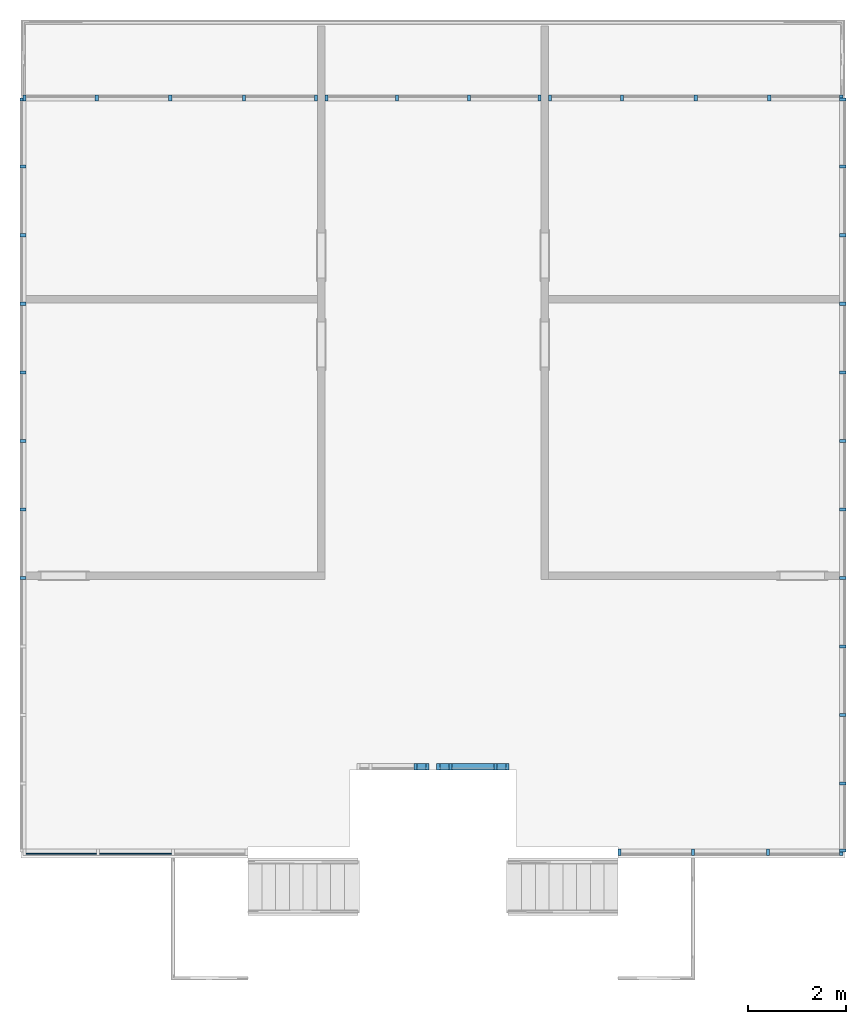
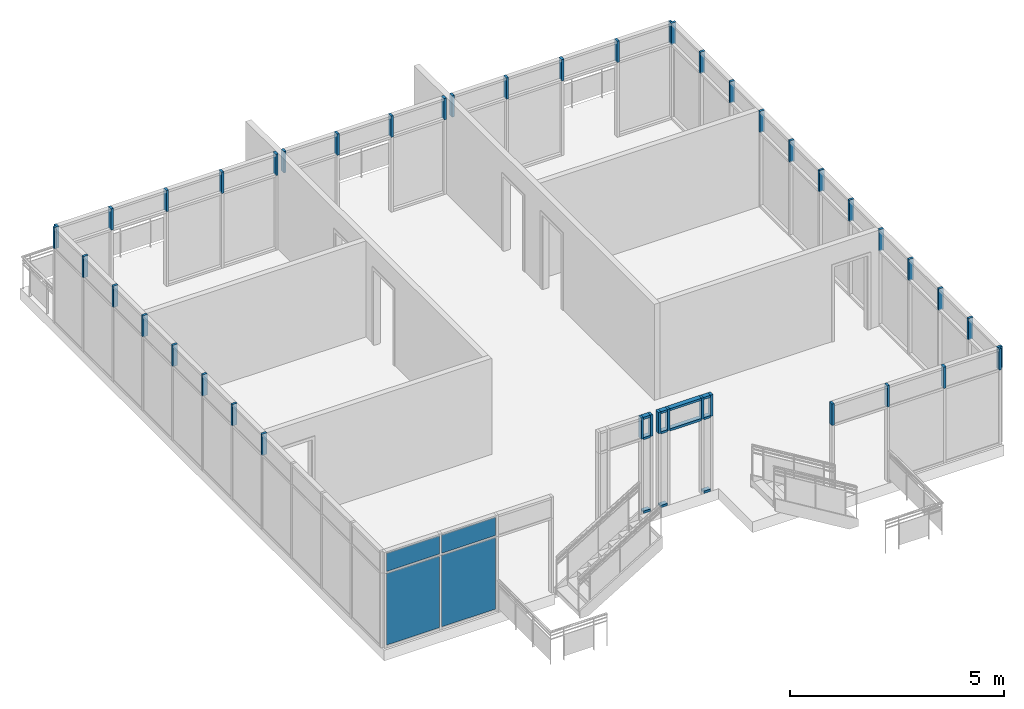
# One storey, part 4 of 11: 55 members, 4 plates, 9 elements without a shape of their own.
"""IFC2X3 building model written with IfcOpenShell, lengths in feet."""

from ifc_helpers import new_model, entity, si_unit, converted_unit, derived_unit, direction, frame, frame_2d, origin, origin_2d_with_axis, place, context, subcontext, project, spatial, rectangle, extrude, source, transform, mapped, material, layer, layer_set, layer_usage, type_object, type_shapes, element, aggregate, save


model = new_model("IFC2X3")

# Units and contexts
model_context = context("Model", 3, precision=0.0001, world=origin(), true_north=direction((6.12303176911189e-17, 1.0)))
body_context = subcontext(model_context, "Body", "Model", "MODEL_VIEW")
ifc_project = project(units=[converted_unit("LENGTHUNIT", "FOOT", entity("IfcRatioMeasure", 0.3048), si_unit("LENGTHUNIT", "METRE"), dimensions=[1, 0, 0, 0, 0, 0, 0]), converted_unit("AREAUNIT", "SQUARE FOOT", entity("IfcRatioMeasure", 0.09290304), si_unit("AREAUNIT", "SQUARE_METRE"), dimensions=[2, 0, 0, 0, 0, 0, 0]), converted_unit("VOLUMEUNIT", "CUBIC FOOT", entity("IfcRatioMeasure", 0.028316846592), si_unit("VOLUMEUNIT", "CUBIC_METRE"), dimensions=[3, 0, 0, 0, 0, 0, 0]), converted_unit("PLANEANGLEUNIT", "DEGREE", entity("IfcRatioMeasure", 0.0174532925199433), si_unit("PLANEANGLEUNIT", "RADIAN"), dimensions=[0, 0, 0, 0, 0, 0, 0]), si_unit("MASSUNIT", "GRAM", prefix="KILO"), derived_unit("MASSDENSITYUNIT", [(si_unit("MASSUNIT", "GRAM", prefix="KILO"), 1), (si_unit("LENGTHUNIT", "METRE"), -3)]), si_unit("TIMEUNIT", "SECOND"), si_unit("FREQUENCYUNIT", "HERTZ"), si_unit("THERMODYNAMICTEMPERATUREUNIT", "DEGREE_CELSIUS"), derived_unit("THERMALTRANSMITTANCEUNIT", [(si_unit("MASSUNIT", "GRAM", prefix="KILO"), 1), (si_unit("THERMODYNAMICTEMPERATUREUNIT", "KELVIN"), -1), (si_unit("TIMEUNIT", "SECOND"), -3)]), derived_unit("VOLUMETRICFLOWRATEUNIT", [(si_unit("LENGTHUNIT", "METRE"), 3), (si_unit("TIMEUNIT", "SECOND"), -1)]), si_unit("ELECTRICCURRENTUNIT", "AMPERE"), si_unit("ELECTRICVOLTAGEUNIT", "VOLT"), si_unit("POWERUNIT", "WATT"), si_unit("FORCEUNIT", "NEWTON"), si_unit("ILLUMINANCEUNIT", "LUX"), si_unit("LUMINOUSFLUXUNIT", "LUMEN"), si_unit("LUMINOUSINTENSITYUNIT", "CANDELA"), derived_unit("USERDEFINED", [(si_unit("MASSUNIT", "GRAM", prefix="KILO"), -1), (si_unit("LENGTHUNIT", "METRE"), -2), (si_unit("TIMEUNIT", "SECOND"), 3), (si_unit("LUMINOUSFLUXUNIT", "LUMEN"), 1)]), derived_unit("LINEARVELOCITYUNIT", [(si_unit("LENGTHUNIT", "METRE"), 1), (si_unit("TIMEUNIT", "SECOND"), -1)]), si_unit("PRESSUREUNIT", "PASCAL"), derived_unit("USERDEFINED", [(si_unit("LENGTHUNIT", "METRE"), -2), (si_unit("MASSUNIT", "GRAM", prefix="KILO"), 1), (si_unit("TIMEUNIT", "SECOND"), -2)])], contexts=[model_context])

# Site, building, storey
site_placement = place(None, origin())
site = spatial("IfcSite", under=ifc_project, at=site_placement, Name="Default", CompositionType="ELEMENT")
building_placement = place(site_placement, origin())
building = spatial("IfcBuilding", under=site, at=building_placement, CompositionType="ELEMENT")
storey_placement = place(building_placement, frame((0.0, 0.0, 40.0)))
storey = spatial("IfcBuildingStorey", under=building, at=storey_placement, Name="L 7", CompositionType="ELEMENT", Elevation=39.9999999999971)

# Curtain wall, member
curtain_wall_type = type_object("IfcCurtainWallType", Name="Curtain Wall:Storefront 2", PredefinedType="NOTDEFINED")
curtain_wall_1_placement = place(storey_placement, frame((0.0, 0.0, -40.0)))
curtain_wall_1 = element("IfcCurtainWall", 1, at=curtain_wall_1_placement, inside=storey, type_object=curtain_wall_type, Name="Curtain Wall:Storefront 2", ObjectType="Curtain Wall:Storefront 2")
ifc_material_1 = material(Name="Aluminum")
member_type_1 = type_object("IfcMemberType", Name="2.5\" x 5\" rectangular", PredefinedType="MEMBER")
shared_shape_1 = source(origin(), body_context, "Body", "SweptSolid", [
    extrude(rectangle(XDim=0.416666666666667, YDim=0.208333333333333, at=origin_2d_with_axis()), frame((-0.104166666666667, 0.0, -2.0), z_axis=(0.0, 0.0, 1.0), x_axis=(0.0, -1.0, 0.0)), (0.0, 0.0, 1.0), 2.0),
])
type_shapes(member_type_1, [shared_shape_1])
member_1_placement = place(storey_placement, frame((-21.6584961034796, -6.94114126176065, 7.0), z_axis=(0.0, 0.0, -1.0), x_axis=(-1.0, 0.0, 0.0)))
member_1 = element("IfcMember", 2, at=member_1_placement, type_object=member_type_1, material=ifc_material_1, Name="Rectangular Mullion:2.5\" x 5\" rectangular", ObjectType="2.5\" x 5\" rectangular", context=body_context, shape_type="MappedRepresentation", body=[
    mapped(shared_shape_1, transform((0.0, 0.0, 0.0), scale=1.0)),
])

curtain_wall_2_placement = place(storey_placement, frame((0.0, 0.0, -40.0)))
curtain_wall_2 = element("IfcCurtainWall", 3, at=curtain_wall_2_placement, inside=storey, type_object=curtain_wall_type, Name="Curtain Wall:Storefront 2", ObjectType="Curtain Wall:Storefront 2")
member_2_placement = place(storey_placement, frame((-33.7418294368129, -1.23280792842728, 7.0), z_axis=(0.0, 0.0, -1.0), x_axis=(-1.0, 0.0, 0.0)))
member_2 = element("IfcMember", 4, at=member_2_placement, type_object=member_type_1, material=ifc_material_1, Name="Rectangular Mullion:2.5\" x 5\" rectangular", ObjectType="2.5\" x 5\" rectangular", context=body_context, shape_type="MappedRepresentation", body=[
    mapped(shared_shape_1, transform((0.0, 0.0, 0.0), scale=1.0)),
])

curtain_wall_3_placement = place(storey_placement, frame((0.0, 0.0, -40.0)))
curtain_wall_3 = element("IfcCurtainWall", 5, at=curtain_wall_3_placement, inside=storey, type_object=curtain_wall_type, Name="Curtain Wall:Storefront 2", ObjectType="Curtain Wall:Storefront 2")
member_3_placement = place(storey_placement, frame((-61.3251627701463, 43.3505254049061, 7.0), z_axis=(0.0, 0.0, -1.0), x_axis=(0.0, 1.0, 0.0)))
member_3 = element("IfcMember", 6, at=member_3_placement, type_object=member_type_1, material=ifc_material_1, Name="Rectangular Mullion:2.5\" x 5\" rectangular", ObjectType="2.5\" x 5\" rectangular", context=body_context, shape_type="MappedRepresentation", body=[
    mapped(shared_shape_1, transform((0.0, 0.0, 0.0), scale=1.0)),
])

curtain_wall_4_placement = place(storey_placement, frame((0.0, 0.0, -40.0)))
curtain_wall_4 = element("IfcCurtainWall", 7, at=curtain_wall_4_placement, inside=storey, type_object=curtain_wall_type, Name="Curtain Wall:Storefront 2", ObjectType="Curtain Wall:Storefront 2")
member_4_placement = place(storey_placement, frame((-41.6963748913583, 43.3505254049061, 7.0), z_axis=(0.0, 0.0, -1.0), x_axis=(1.0, 0.0, 0.0)))
member_4 = element("IfcMember", 8, at=member_4_placement, type_object=member_type_1, material=ifc_material_1, Name="Rectangular Mullion:2.5\" x 5\" rectangular", ObjectType="2.5\" x 5\" rectangular", context=body_context, shape_type="MappedRepresentation", body=[
    mapped(shared_shape_1, transform((0.0, 0.0, 0.0), scale=1.0)),
])

curtain_wall_5_placement = place(storey_placement, frame((0.0, 0.0, -40.0)))
curtain_wall_5 = element("IfcCurtainWall", 9, at=curtain_wall_5_placement, inside=storey, type_object=curtain_wall_type, Name="Curtain Wall:Storefront 2", ObjectType="Curtain Wall:Storefront 2")
member_5_placement = place(storey_placement, frame((-6.65849610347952, -6.9411412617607, 7.0), z_axis=(0.0, 0.0, -1.0), x_axis=(0.0, -1.0, 0.0)))
member_5 = element("IfcMember", 10, at=member_5_placement, type_object=member_type_1, material=ifc_material_1, Name="Rectangular Mullion:2.5\" x 5\" rectangular", ObjectType="2.5\" x 5\" rectangular", context=body_context, shape_type="MappedRepresentation", body=[
    mapped(shared_shape_1, transform((0.0, 0.0, 0.0), scale=1.0)),
])

curtain_wall_6_placement = place(storey_placement, frame((0.0, 0.0, -40.0)))
curtain_wall_6 = element("IfcCurtainWall", 11, at=curtain_wall_6_placement, inside=storey, type_object=curtain_wall_type, Name="Curtain Wall:Storefront 2", ObjectType="Curtain Wall:Storefront 2")
member_6_placement = place(storey_placement, frame((-6.65849610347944, 43.350525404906, 7.0), z_axis=(0.0, 0.0, -1.0), x_axis=(1.0, 0.0, 0.0)))
member_6 = element("IfcMember", 12, at=member_6_placement, type_object=member_type_1, material=ifc_material_1, Name="Rectangular Mullion:2.5\" x 5\" rectangular", ObjectType="2.5\" x 5\" rectangular", context=body_context, shape_type="MappedRepresentation", body=[
    mapped(shared_shape_1, transform((0.0, 0.0, 0.0), scale=1.0)),
])

curtain_wall_7_placement = place(storey_placement, frame((0.0, 0.0, -40.0)))
curtain_wall_7 = element("IfcCurtainWall", 13, at=curtain_wall_7_placement, inside=storey, type_object=curtain_wall_type, Name="Curtain Wall:Storefront 2", ObjectType="Curtain Wall:Storefront 2")
member_7_placement = place(storey_placement, frame((-26.7872839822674, 43.350525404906, 7.0), z_axis=(0.0, 0.0, -1.0), x_axis=(1.0, 0.0, 0.0)))
member_7 = element("IfcMember", 14, at=member_7_placement, type_object=member_type_1, material=ifc_material_1, Name="Rectangular Mullion:2.5\" x 5\" rectangular", ObjectType="2.5\" x 5\" rectangular", context=body_context, shape_type="MappedRepresentation", body=[
    mapped(shared_shape_1, transform((0.0, 0.0, 0.0), scale=1.0)),
])

# Member
member_type_2 = type_object("IfcMemberType", Name="2.5\" x 5\" rectangular", PredefinedType="MEMBER")
shared_shape_2 = source(origin(), body_context, "Body", "SweptSolid", [
    extrude(rectangle(XDim=0.416666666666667, YDim=0.208333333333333, at=origin_2d_with_axis()), frame((-0.104166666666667, 0.0, -2.0), z_axis=(0.0, 0.0, 1.0), x_axis=(0.0, -1.0, 0.0)), (0.0, 0.0, 1.0), 2.0),
])
type_shapes(member_type_2, [shared_shape_2])
member_8_placement = place(storey_placement, frame((-6.65849610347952, -6.94114126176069, 9.0)))
member_8 = element("IfcMember", 15, at=member_8_placement, type_object=member_type_2, material=ifc_material_1, Name="Rectangular Mullion:2.5\" x 5\" rectangular", ObjectType="2.5\" x 5\" rectangular", context=body_context, shape_type="MappedRepresentation", body=[
    mapped(shared_shape_2, transform((0.0, 0.0, 0.0), scale=1.0)),
])

# Curtain wall, member
curtain_wall_8_placement = place(storey_placement, frame((0.0, 0.0, -40.0)))
curtain_wall_8 = element("IfcCurtainWall", 16, at=curtain_wall_8_placement, inside=storey, type_object=curtain_wall_type, Name="Curtain Wall:Storefront 2", ObjectType="Curtain Wall:Storefront 2")
member_9_placement = place(storey_placement, frame((-34.2418294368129, -1.23280792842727, 9.0)))
member_9 = element("IfcMember", 17, at=member_9_placement, type_object=member_type_2, material=ifc_material_1, Name="Rectangular Mullion:2.5\" x 5\" rectangular", ObjectType="2.5\" x 5\" rectangular", context=body_context, shape_type="MappedRepresentation", body=[
    mapped(shared_shape_2, transform((0.0, 0.0, 0.0), scale=1.0)),
])

# Member
member_10_placement = place(storey_placement, frame((-28.9084961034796, -1.23280792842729, 9.0)))
member_10 = element("IfcMember", 18, at=member_10_placement, type_object=member_type_2, material=ifc_material_1, Name="Rectangular Mullion:2.5\" x 5\" rectangular", ObjectType="2.5\" x 5\" rectangular", context=body_context, shape_type="MappedRepresentation", body=[
    mapped(shared_shape_2, transform((0.0, 0.0, 0.0), scale=1.0)),
])

member_11_placement = place(storey_placement, frame((-61.3251627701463, 43.3505254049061, 9.0), z_axis=(0.0, 0.0, 1.0), x_axis=(-1.0, 0.0, 0.0)))
member_11 = element("IfcMember", 19, at=member_11_placement, type_object=member_type_2, material=ifc_material_1, Name="Rectangular Mullion:2.5\" x 5\" rectangular", ObjectType="2.5\" x 5\" rectangular", context=body_context, shape_type="MappedRepresentation", body=[
    mapped(shared_shape_2, transform((0.0, 0.0, 0.0), scale=1.0)),
])

member_12_placement = place(storey_placement, frame((-6.65849610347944, 43.350525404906, 9.0), z_axis=(0.0, 0.0, 1.0), x_axis=(0.0, 1.0, 0.0)))
member_12 = element("IfcMember", 20, at=member_12_placement, type_object=member_type_2, material=ifc_material_1, Name="Rectangular Mullion:2.5\" x 5\" rectangular", ObjectType="2.5\" x 5\" rectangular", context=body_context, shape_type="MappedRepresentation", body=[
    mapped(shared_shape_2, transform((0.0, 0.0, 0.0), scale=1.0)),
])

member_13_placement = place(storey_placement, frame((-26.2872839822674, 43.350525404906, 9.0), z_axis=(0.0, 0.0, 1.0), x_axis=(-1.0, 0.0, 0.0)))
member_13 = element("IfcMember", 21, at=member_13_placement, type_object=member_type_2, material=ifc_material_1, Name="Rectangular Mullion:2.5\" x 5\" rectangular", ObjectType="2.5\" x 5\" rectangular", context=body_context, shape_type="MappedRepresentation", body=[
    mapped(shared_shape_2, transform((0.0, 0.0, 0.0), scale=1.0)),
])

member_14_placement = place(storey_placement, frame((-41.1963748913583, 43.3505254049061, 9.0), z_axis=(0.0, 0.0, 1.0), x_axis=(-1.0, 0.0, 0.0)))
member_14 = element("IfcMember", 22, at=member_14_placement, type_object=member_type_2, material=ifc_material_1, Name="Rectangular Mullion:2.5\" x 5\" rectangular", ObjectType="2.5\" x 5\" rectangular", context=body_context, shape_type="MappedRepresentation", body=[
    mapped(shared_shape_2, transform((0.0, 0.0, 0.0), scale=1.0)),
])

member_type_3 = type_object("IfcMemberType", Name="2.5\" x 5\" rectangular", PredefinedType="MEMBER")
shared_shape_3 = source(origin(), body_context, "Body", "SweptSolid", [
    extrude(rectangle(XDim=0.416666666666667, YDim=0.208333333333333, at=origin_2d_with_axis()), frame((0.0, 0.0, -2.0), z_axis=(0.0, 0.0, 1.0), x_axis=(0.0, -1.0, 0.0)), (0.0, 0.0, 1.0), 2.0),
])
type_shapes(member_type_3, [shared_shape_3])
member_15_placement = place(storey_placement, frame((-11.6584961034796, -6.94114126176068, 7.0), z_axis=(0.0, 0.0, -1.0), x_axis=(-1.0, 0.0, 0.0)))
member_15 = element("IfcMember", 23, at=member_15_placement, type_object=member_type_3, material=ifc_material_1, Name="Rectangular Mullion:2.5\" x 5\" rectangular", ObjectType="2.5\" x 5\" rectangular", context=body_context, shape_type="MappedRepresentation", body=[
    mapped(shared_shape_3, transform((0.0, 0.0, 0.0), scale=1.0)),
])

member_16_placement = place(storey_placement, frame((-16.6584961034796, -6.94114126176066, 7.0), z_axis=(0.0, 0.0, -1.0), x_axis=(-1.0, 0.0, 0.0)))
member_16 = element("IfcMember", 24, at=member_16_placement, type_object=member_type_3, material=ifc_material_1, Name="Rectangular Mullion:2.5\" x 5\" rectangular", ObjectType="2.5\" x 5\" rectangular", context=body_context, shape_type="MappedRepresentation", body=[
    mapped(shared_shape_3, transform((0.0, 0.0, 0.0), scale=1.0)),
])

aggregate(curtain_wall_1, [member_1, member_8, member_15, member_16])

member_17_placement = place(storey_placement, frame((-35.1584961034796, -1.23280792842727, 7.0), z_axis=(0.0, 0.0, -1.0), x_axis=(-1.0, 0.0, 0.0)))
member_17 = element("IfcMember", 25, at=member_17_placement, type_object=member_type_3, material=ifc_material_1, Name="Rectangular Mullion:2.5\" x 5\" rectangular", ObjectType="2.5\" x 5\" rectangular", context=body_context, shape_type="MappedRepresentation", body=[
    mapped(shared_shape_3, transform((0.0, 0.0, 0.0), scale=1.0)),
])

member_18_placement = place(storey_placement, frame((-29.8251627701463, -1.23280792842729, 7.0), z_axis=(0.0, 0.0, -1.0), x_axis=(-1.0, 0.0, 0.0)))
member_18 = element("IfcMember", 26, at=member_18_placement, type_object=member_type_3, material=ifc_material_1, Name="Rectangular Mullion:2.5\" x 5\" rectangular", ObjectType="2.5\" x 5\" rectangular", context=body_context, shape_type="MappedRepresentation", body=[
    mapped(shared_shape_3, transform((0.0, 0.0, 0.0), scale=1.0)),
])

member_19_placement = place(storey_placement, frame((-32.8251627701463, -1.23280792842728, 7.0), z_axis=(0.0, 0.0, -1.0), x_axis=(-1.0, 0.0, 0.0)))
member_19 = element("IfcMember", 27, at=member_19_placement, type_object=member_type_3, material=ifc_material_1, Name="Rectangular Mullion:2.5\" x 5\" rectangular", ObjectType="2.5\" x 5\" rectangular", context=body_context, shape_type="MappedRepresentation", body=[
    mapped(shared_shape_3, transform((0.0, 0.0, 0.0), scale=1.0)),
])

member_20_placement = place(storey_placement, frame((-61.3251627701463, 11.3467375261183, 7.0), z_axis=(0.0, 0.0, -1.0), x_axis=(0.0, 1.0, 0.0)))
member_20 = element("IfcMember", 28, at=member_20_placement, type_object=member_type_3, material=ifc_material_1, Name="Rectangular Mullion:2.5\" x 5\" rectangular", ObjectType="2.5\" x 5\" rectangular", context=body_context, shape_type="MappedRepresentation", body=[
    mapped(shared_shape_3, transform((0.0, 0.0, 0.0), scale=1.0)),
])

member_21_placement = place(storey_placement, frame((-61.3251627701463, 15.918707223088, 7.0), z_axis=(0.0, 0.0, -1.0), x_axis=(0.0, 1.0, 0.0)))
member_21 = element("IfcMember", 29, at=member_21_placement, type_object=member_type_3, material=ifc_material_1, Name="Rectangular Mullion:2.5\" x 5\" rectangular", ObjectType="2.5\" x 5\" rectangular", context=body_context, shape_type="MappedRepresentation", body=[
    mapped(shared_shape_3, transform((0.0, 0.0, 0.0), scale=1.0)),
])

member_22_placement = place(storey_placement, frame((-61.3251627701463, 20.4906769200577, 7.0), z_axis=(0.0, 0.0, -1.0), x_axis=(0.0, 1.0, 0.0)))
member_22 = element("IfcMember", 30, at=member_22_placement, type_object=member_type_3, material=ifc_material_1, Name="Rectangular Mullion:2.5\" x 5\" rectangular", ObjectType="2.5\" x 5\" rectangular", context=body_context, shape_type="MappedRepresentation", body=[
    mapped(shared_shape_3, transform((0.0, 0.0, 0.0), scale=1.0)),
])

member_23_placement = place(storey_placement, frame((-61.3251627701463, 25.0626466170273, 7.0), z_axis=(0.0, 0.0, -1.0), x_axis=(0.0, 1.0, 0.0)))
member_23 = element("IfcMember", 31, at=member_23_placement, type_object=member_type_3, material=ifc_material_1, Name="Rectangular Mullion:2.5\" x 5\" rectangular", ObjectType="2.5\" x 5\" rectangular", context=body_context, shape_type="MappedRepresentation", body=[
    mapped(shared_shape_3, transform((0.0, 0.0, 0.0), scale=1.0)),
])

member_24_placement = place(storey_placement, frame((-61.3251627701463, 29.634616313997, 7.0), z_axis=(0.0, 0.0, -1.0), x_axis=(0.0, 1.0, 0.0)))
member_24 = element("IfcMember", 32, at=member_24_placement, type_object=member_type_3, material=ifc_material_1, Name="Rectangular Mullion:2.5\" x 5\" rectangular", ObjectType="2.5\" x 5\" rectangular", context=body_context, shape_type="MappedRepresentation", body=[
    mapped(shared_shape_3, transform((0.0, 0.0, 0.0), scale=1.0)),
])

member_25_placement = place(storey_placement, frame((-61.3251627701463, 34.2065860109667, 7.0), z_axis=(0.0, 0.0, -1.0), x_axis=(0.0, 1.0, 0.0)))
member_25 = element("IfcMember", 33, at=member_25_placement, type_object=member_type_3, material=ifc_material_1, Name="Rectangular Mullion:2.5\" x 5\" rectangular", ObjectType="2.5\" x 5\" rectangular", context=body_context, shape_type="MappedRepresentation", body=[
    mapped(shared_shape_3, transform((0.0, 0.0, 0.0), scale=1.0)),
])

member_26_placement = place(storey_placement, frame((-61.3251627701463, 38.7785557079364, 7.0), z_axis=(0.0, 0.0, -1.0), x_axis=(0.0, 1.0, 0.0)))
member_26 = element("IfcMember", 34, at=member_26_placement, type_object=member_type_3, material=ifc_material_1, Name="Rectangular Mullion:2.5\" x 5\" rectangular", ObjectType="2.5\" x 5\" rectangular", context=body_context, shape_type="MappedRepresentation", body=[
    mapped(shared_shape_3, transform((0.0, 0.0, 0.0), scale=1.0)),
])

aggregate(curtain_wall_3, [member_3, member_20, member_21, member_22, member_23, member_24, member_25, member_26])

member_27_placement = place(storey_placement, frame((-56.4179658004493, 43.3505254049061, 7.0), z_axis=(0.0, 0.0, -1.0), x_axis=(1.0, 0.0, 0.0)))
member_27 = element("IfcMember", 35, at=member_27_placement, type_object=member_type_3, material=ifc_material_1, Name="Rectangular Mullion:2.5\" x 5\" rectangular", ObjectType="2.5\" x 5\" rectangular", context=body_context, shape_type="MappedRepresentation", body=[
    mapped(shared_shape_3, transform((0.0, 0.0, 0.0), scale=1.0)),
])

member_28_placement = place(storey_placement, frame((-51.5107688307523, 43.3505254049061, 7.0), z_axis=(0.0, 0.0, -1.0), x_axis=(1.0, 0.0, 0.0)))
member_28 = element("IfcMember", 36, at=member_28_placement, type_object=member_type_3, material=ifc_material_1, Name="Rectangular Mullion:2.5\" x 5\" rectangular", ObjectType="2.5\" x 5\" rectangular", context=body_context, shape_type="MappedRepresentation", body=[
    mapped(shared_shape_3, transform((0.0, 0.0, 0.0), scale=1.0)),
])

member_29_placement = place(storey_placement, frame((-46.6035718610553, 43.3505254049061, 7.0), z_axis=(0.0, 0.0, -1.0), x_axis=(1.0, 0.0, 0.0)))
member_29 = element("IfcMember", 37, at=member_29_placement, type_object=member_type_3, material=ifc_material_1, Name="Rectangular Mullion:2.5\" x 5\" rectangular", ObjectType="2.5\" x 5\" rectangular", context=body_context, shape_type="MappedRepresentation", body=[
    mapped(shared_shape_3, transform((0.0, 0.0, 0.0), scale=1.0)),
])

aggregate(curtain_wall_4, [member_4, member_11, member_27, member_28, member_29])

member_30_placement = place(storey_placement, frame((-6.65849610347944, 38.7785557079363, 7.0), z_axis=(0.0, 0.0, -1.0), x_axis=(0.0, -1.0, 0.0)))
member_30 = element("IfcMember", 38, at=member_30_placement, type_object=member_type_3, material=ifc_material_1, Name="Rectangular Mullion:2.5\" x 5\" rectangular", ObjectType="2.5\" x 5\" rectangular", context=body_context, shape_type="MappedRepresentation", body=[
    mapped(shared_shape_3, transform((0.0, 0.0, 0.0), scale=1.0)),
])

member_31_placement = place(storey_placement, frame((-6.65849610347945, 34.2065860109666, 7.0), z_axis=(0.0, 0.0, -1.0), x_axis=(0.0, -1.0, 0.0)))
member_31 = element("IfcMember", 39, at=member_31_placement, type_object=member_type_3, material=ifc_material_1, Name="Rectangular Mullion:2.5\" x 5\" rectangular", ObjectType="2.5\" x 5\" rectangular", context=body_context, shape_type="MappedRepresentation", body=[
    mapped(shared_shape_3, transform((0.0, 0.0, 0.0), scale=1.0)),
])

member_32_placement = place(storey_placement, frame((-6.65849610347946, 29.6346163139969, 7.0), z_axis=(0.0, 0.0, -1.0), x_axis=(0.0, -1.0, 0.0)))
member_32 = element("IfcMember", 40, at=member_32_placement, type_object=member_type_3, material=ifc_material_1, Name="Rectangular Mullion:2.5\" x 5\" rectangular", ObjectType="2.5\" x 5\" rectangular", context=body_context, shape_type="MappedRepresentation", body=[
    mapped(shared_shape_3, transform((0.0, 0.0, 0.0), scale=1.0)),
])

member_33_placement = place(storey_placement, frame((-6.65849610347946, 25.0626466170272, 7.0), z_axis=(0.0, 0.0, -1.0), x_axis=(0.0, -1.0, 0.0)))
member_33 = element("IfcMember", 41, at=member_33_placement, type_object=member_type_3, material=ifc_material_1, Name="Rectangular Mullion:2.5\" x 5\" rectangular", ObjectType="2.5\" x 5\" rectangular", context=body_context, shape_type="MappedRepresentation", body=[
    mapped(shared_shape_3, transform((0.0, 0.0, 0.0), scale=1.0)),
])

member_34_placement = place(storey_placement, frame((-6.65849610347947, 20.4906769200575, 7.0), z_axis=(0.0, 0.0, -1.0), x_axis=(0.0, -1.0, 0.0)))
member_34 = element("IfcMember", 42, at=member_34_placement, type_object=member_type_3, material=ifc_material_1, Name="Rectangular Mullion:2.5\" x 5\" rectangular", ObjectType="2.5\" x 5\" rectangular", context=body_context, shape_type="MappedRepresentation", body=[
    mapped(shared_shape_3, transform((0.0, 0.0, 0.0), scale=1.0)),
])

member_35_placement = place(storey_placement, frame((-6.65849610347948, 15.9187072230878, 7.0), z_axis=(0.0, 0.0, -1.0), x_axis=(0.0, -1.0, 0.0)))
member_35 = element("IfcMember", 43, at=member_35_placement, type_object=member_type_3, material=ifc_material_1, Name="Rectangular Mullion:2.5\" x 5\" rectangular", ObjectType="2.5\" x 5\" rectangular", context=body_context, shape_type="MappedRepresentation", body=[
    mapped(shared_shape_3, transform((0.0, 0.0, 0.0), scale=1.0)),
])

member_36_placement = place(storey_placement, frame((-6.65849610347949, 11.3467375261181, 7.0), z_axis=(0.0, 0.0, -1.0), x_axis=(0.0, -1.0, 0.0)))
member_36 = element("IfcMember", 44, at=member_36_placement, type_object=member_type_3, material=ifc_material_1, Name="Rectangular Mullion:2.5\" x 5\" rectangular", ObjectType="2.5\" x 5\" rectangular", context=body_context, shape_type="MappedRepresentation", body=[
    mapped(shared_shape_3, transform((0.0, 0.0, 0.0), scale=1.0)),
])

member_37_placement = place(storey_placement, frame((-6.65849610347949, 6.77476782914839, 7.0), z_axis=(0.0, 0.0, -1.0), x_axis=(0.0, -1.0, 0.0)))
member_37 = element("IfcMember", 45, at=member_37_placement, type_object=member_type_3, material=ifc_material_1, Name="Rectangular Mullion:2.5\" x 5\" rectangular", ObjectType="2.5\" x 5\" rectangular", context=body_context, shape_type="MappedRepresentation", body=[
    mapped(shared_shape_3, transform((0.0, 0.0, 0.0), scale=1.0)),
])

member_38_placement = place(storey_placement, frame((-6.6584961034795, 2.20279813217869, 7.0), z_axis=(0.0, 0.0, -1.0), x_axis=(0.0, -1.0, 0.0)))
member_38 = element("IfcMember", 46, at=member_38_placement, type_object=member_type_3, material=ifc_material_1, Name="Rectangular Mullion:2.5\" x 5\" rectangular", ObjectType="2.5\" x 5\" rectangular", context=body_context, shape_type="MappedRepresentation", body=[
    mapped(shared_shape_3, transform((0.0, 0.0, 0.0), scale=1.0)),
])

member_39_placement = place(storey_placement, frame((-6.65849610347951, -2.369171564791, 7.0), z_axis=(0.0, 0.0, -1.0), x_axis=(0.0, -1.0, 0.0)))
member_39 = element("IfcMember", 47, at=member_39_placement, type_object=member_type_3, material=ifc_material_1, Name="Rectangular Mullion:2.5\" x 5\" rectangular", ObjectType="2.5\" x 5\" rectangular", context=body_context, shape_type="MappedRepresentation", body=[
    mapped(shared_shape_3, transform((0.0, 0.0, 0.0), scale=1.0)),
])

aggregate(curtain_wall_5, [member_5, member_12, member_30, member_31, member_32, member_33, member_34, member_35, member_36, member_37, member_38, member_39])

member_40_placement = place(storey_placement, frame((-21.3800870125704, 43.350525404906, 7.0), z_axis=(0.0, 0.0, -1.0), x_axis=(1.0, 0.0, 0.0)))
member_40 = element("IfcMember", 48, at=member_40_placement, type_object=member_type_3, material=ifc_material_1, Name="Rectangular Mullion:2.5\" x 5\" rectangular", ObjectType="2.5\" x 5\" rectangular", context=body_context, shape_type="MappedRepresentation", body=[
    mapped(shared_shape_3, transform((0.0, 0.0, 0.0), scale=1.0)),
])

member_41_placement = place(storey_placement, frame((-16.4728900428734, 43.350525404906, 7.0), z_axis=(0.0, 0.0, -1.0), x_axis=(1.0, 0.0, 0.0)))
member_41 = element("IfcMember", 49, at=member_41_placement, type_object=member_type_3, material=ifc_material_1, Name="Rectangular Mullion:2.5\" x 5\" rectangular", ObjectType="2.5\" x 5\" rectangular", context=body_context, shape_type="MappedRepresentation", body=[
    mapped(shared_shape_3, transform((0.0, 0.0, 0.0), scale=1.0)),
])

member_42_placement = place(storey_placement, frame((-11.5656930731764, 43.350525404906, 7.0), z_axis=(0.0, 0.0, -1.0), x_axis=(1.0, 0.0, 0.0)))
member_42 = element("IfcMember", 50, at=member_42_placement, type_object=member_type_3, material=ifc_material_1, Name="Rectangular Mullion:2.5\" x 5\" rectangular", ObjectType="2.5\" x 5\" rectangular", context=body_context, shape_type="MappedRepresentation", body=[
    mapped(shared_shape_3, transform((0.0, 0.0, 0.0), scale=1.0)),
])

aggregate(curtain_wall_6, [member_6, member_13, member_40, member_41, member_42])

member_43_placement = place(storey_placement, frame((-36.393344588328, 43.3505254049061, 7.0), z_axis=(0.0, 0.0, -1.0), x_axis=(1.0, 0.0, 0.0)))
member_43 = element("IfcMember", 51, at=member_43_placement, type_object=member_type_3, material=ifc_material_1, Name="Rectangular Mullion:2.5\" x 5\" rectangular", ObjectType="2.5\" x 5\" rectangular", context=body_context, shape_type="MappedRepresentation", body=[
    mapped(shared_shape_3, transform((0.0, 0.0, 0.0), scale=1.0)),
])

member_44_placement = place(storey_placement, frame((-31.5903142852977, 43.350525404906, 7.0), z_axis=(0.0, 0.0, -1.0), x_axis=(1.0, 0.0, 0.0)))
member_44 = element("IfcMember", 52, at=member_44_placement, type_object=member_type_3, material=ifc_material_1, Name="Rectangular Mullion:2.5\" x 5\" rectangular", ObjectType="2.5\" x 5\" rectangular", context=body_context, shape_type="MappedRepresentation", body=[
    mapped(shared_shape_3, transform((0.0, 0.0, 0.0), scale=1.0)),
])

aggregate(curtain_wall_7, [member_7, member_14, member_43, member_44])

member_type_4 = type_object("IfcMemberType", Name="2.5\" x 5\" rectangular", PredefinedType="MEMBER")
shared_shape_4 = source(origin(), body_context, "Body", "SweptSolid", [
    extrude(rectangle(XDim=0.416666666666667, YDim=0.208333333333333, at=origin_2d_with_axis()), frame((-0.104166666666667, 0.0, -0.604166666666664), z_axis=(0.0, 0.0, 1.0), x_axis=(0.0, -1.0, 0.0)), (0.0, 0.0, 1.0), 0.604166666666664),
])
type_shapes(member_type_4, [shared_shape_4])
member_45_placement = place(storey_placement, frame((-35.0543294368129, -1.23280792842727, 9.0), z_axis=(-1.0, 0.0, 0.0), x_axis=(0.0, 0.0, 1.0)))
member_45 = element("IfcMember", 53, at=member_45_placement, type_object=member_type_4, material=ifc_material_1, Name="Rectangular Mullion:2.5\" x 5\" rectangular", ObjectType="2.5\" x 5\" rectangular", context=body_context, shape_type="MappedRepresentation", body=[
    mapped(shared_shape_4, transform((0.0, 0.0, 0.0), scale=1.0)),
])

member_46_placement = place(storey_placement, frame((-33.5334961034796, -1.23280792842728, 9.0), z_axis=(-1.0, 0.0, 0.0), x_axis=(0.0, 0.0, 1.0)))
member_46 = element("IfcMember", 54, at=member_46_placement, type_object=member_type_4, material=ifc_material_1, Name="Rectangular Mullion:2.5\" x 5\" rectangular", ObjectType="2.5\" x 5\" rectangular", context=body_context, shape_type="MappedRepresentation", body=[
    mapped(shared_shape_4, transform((0.0, 0.0, 0.0), scale=1.0)),
])

member_47_placement = place(storey_placement, frame((-29.7209961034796, -1.23280792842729, 9.0), z_axis=(-1.0, 0.0, 0.0), x_axis=(0.0, 0.0, 1.0)))
member_47 = element("IfcMember", 55, at=member_47_placement, type_object=member_type_4, material=ifc_material_1, Name="Rectangular Mullion:2.5\" x 5\" rectangular", ObjectType="2.5\" x 5\" rectangular", context=body_context, shape_type="MappedRepresentation", body=[
    mapped(shared_shape_4, transform((0.0, 0.0, 0.0), scale=1.0)),
])

member_type_5 = type_object("IfcMemberType", Name="2.5\" x 5\" rectangular", PredefinedType="MEMBER")
shared_shape_5 = source(origin(), body_context, "Body", "SweptSolid", [
    extrude(rectangle(XDim=0.416666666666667, YDim=0.208333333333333, at=origin_2d_with_axis()), frame((-0.104166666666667, 0.0, -0.604166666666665), z_axis=(0.0, 0.0, 1.0), x_axis=(0.0, -1.0, 0.0)), (0.0, 0.0, 1.0), 0.604166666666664),
])
type_shapes(member_type_5, [shared_shape_5])
member_48_placement = place(storey_placement, frame((-34.4501627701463, -1.23280792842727, 0.0), z_axis=(1.0, 0.0, 0.0), x_axis=(0.0, 0.0, -1.0)))
member_48 = element("IfcMember", 56, at=member_48_placement, type_object=member_type_5, material=ifc_material_1, Name="Rectangular Mullion:2.5\" x 5\" rectangular", ObjectType="2.5\" x 5\" rectangular", context=body_context, shape_type="MappedRepresentation", body=[
    mapped(shared_shape_5, transform((0.0, 0.0, 0.0), scale=1.0)),
])

member_49_placement = place(storey_placement, frame((-29.1168294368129, -1.23280792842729, 0.0), z_axis=(1.0, 0.0, 0.0), x_axis=(0.0, 0.0, -1.0)))
member_49 = element("IfcMember", 57, at=member_49_placement, type_object=member_type_5, material=ifc_material_1, Name="Rectangular Mullion:2.5\" x 5\" rectangular", ObjectType="2.5\" x 5\" rectangular", context=body_context, shape_type="MappedRepresentation", body=[
    mapped(shared_shape_5, transform((0.0, 0.0, 0.0), scale=1.0)),
])

member_50_placement = place(storey_placement, frame((-32.9293294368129, -1.23280792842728, 0.0), z_axis=(1.0, 0.0, 0.0), x_axis=(0.0, 0.0, -1.0)))
member_50 = element("IfcMember", 58, at=member_50_placement, type_object=member_type_5, material=ifc_material_1, Name="Rectangular Mullion:2.5\" x 5\" rectangular", ObjectType="2.5\" x 5\" rectangular", context=body_context, shape_type="MappedRepresentation", body=[
    mapped(shared_shape_5, transform((0.0, 0.0, 0.0), scale=1.0)),
])

member_type_6 = type_object("IfcMemberType", Name="2.5\" x 5\" rectangular", PredefinedType="MEMBER")
shared_shape_6 = source(origin(), body_context, "Body", "SweptSolid", [
    extrude(rectangle(XDim=0.416666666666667, YDim=0.208333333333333, at=origin_2d_with_axis()), frame((0.0, 0.0, -0.604166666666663), z_axis=(0.0, 0.0, 1.0), x_axis=(0.0, -1.0, 0.0)), (0.0, 0.0, 1.0), 0.604166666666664),
])
type_shapes(member_type_6, [shared_shape_6])
member_51_placement = place(storey_placement, frame((-35.0543294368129, -1.23280792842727, 7.0), z_axis=(-1.0, 0.0, 0.0), x_axis=(0.0, 0.0, 1.0)))
member_51 = element("IfcMember", 59, at=member_51_placement, type_object=member_type_6, material=ifc_material_1, Name="Rectangular Mullion:2.5\" x 5\" rectangular", ObjectType="2.5\" x 5\" rectangular", context=body_context, shape_type="MappedRepresentation", body=[
    mapped(shared_shape_6, transform((0.0, 0.0, 0.0), scale=1.0)),
])

aggregate(curtain_wall_8, [member_48, member_9, member_51, member_45, member_17])

member_52_placement = place(storey_placement, frame((-29.7209961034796, -1.23280792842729, 7.0), z_axis=(-1.0, 0.0, 0.0), x_axis=(0.0, 0.0, 1.0)))
member_52 = element("IfcMember", 60, at=member_52_placement, type_object=member_type_6, material=ifc_material_1, Name="Rectangular Mullion:2.5\" x 5\" rectangular", ObjectType="2.5\" x 5\" rectangular", context=body_context, shape_type="MappedRepresentation", body=[
    mapped(shared_shape_6, transform((0.0, 0.0, 0.0), scale=1.0)),
])

member_53_placement = place(storey_placement, frame((-33.5334961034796, -1.23280792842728, 7.0), z_axis=(-1.0, 0.0, 0.0), x_axis=(0.0, 0.0, 1.0)))
member_53 = element("IfcMember", 61, at=member_53_placement, type_object=member_type_6, material=ifc_material_1, Name="Rectangular Mullion:2.5\" x 5\" rectangular", ObjectType="2.5\" x 5\" rectangular", context=body_context, shape_type="MappedRepresentation", body=[
    mapped(shared_shape_6, transform((0.0, 0.0, 0.0), scale=1.0)),
])

member_type_7 = type_object("IfcMemberType", Name="2.5\" x 5\" rectangular", PredefinedType="MEMBER")
shared_shape_7 = source(origin(), body_context, "Body", "SweptSolid", [
    extrude(rectangle(XDim=0.416666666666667, YDim=0.208333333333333, at=origin_2d_with_axis()), frame((0.0, 0.0, -2.79166666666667), z_axis=(0.0, 0.0, 1.0), x_axis=(0.0, -1.0, 0.0)), (0.0, 0.0, 1.0), 2.79166666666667),
])
type_shapes(member_type_7, [shared_shape_7])
member_54_placement = place(storey_placement, frame((-32.7209961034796, -1.23280792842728, 7.0), z_axis=(-1.0, 0.0, 0.0), x_axis=(0.0, 0.0, 1.0)))
member_54 = element("IfcMember", 62, at=member_54_placement, type_object=member_type_7, material=ifc_material_1, Name="Rectangular Mullion:2.5\" x 5\" rectangular", ObjectType="2.5\" x 5\" rectangular", context=body_context, shape_type="MappedRepresentation", body=[
    mapped(shared_shape_7, transform((0.0, 0.0, 0.0), scale=1.0)),
])

member_type_8 = type_object("IfcMemberType", Name="2.5\" x 5\" rectangular", PredefinedType="MEMBER")
shared_shape_8 = source(origin(), body_context, "Body", "SweptSolid", [
    extrude(rectangle(XDim=0.416666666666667, YDim=0.208333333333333, at=origin_2d_with_axis()), frame((-0.104166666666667, 0.0, -2.79166666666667), z_axis=(0.0, 0.0, 1.0), x_axis=(0.0, -1.0, 0.0)), (0.0, 0.0, 1.0), 2.79166666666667),
])
type_shapes(member_type_8, [shared_shape_8])
member_55_placement = place(storey_placement, frame((-32.7209961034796, -1.23280792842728, 9.0), z_axis=(-1.0, 0.0, 0.0), x_axis=(0.0, 0.0, 1.0)))
member_55 = element("IfcMember", 63, at=member_55_placement, type_object=member_type_8, material=ifc_material_1, Name="Rectangular Mullion:2.5\" x 5\" rectangular", ObjectType="2.5\" x 5\" rectangular", context=body_context, shape_type="MappedRepresentation", body=[
    mapped(shared_shape_8, transform((0.0, 0.0, 0.0), scale=1.0)),
])

aggregate(curtain_wall_2, [member_46, member_49, member_2, member_10, member_52, member_47, member_54, member_18, member_55, member_50, member_53, member_19])

# Curtain wall, plates
curtain_wall_9_placement = place(storey_placement, frame((0.0, 0.0, -40.0)))
curtain_wall_9 = element("IfcCurtainWall", 64, at=curtain_wall_9_placement, inside=storey, type_object=curtain_wall_type, Name="Curtain Wall:Storefront 2", ObjectType="Curtain Wall:Storefront 2")
ifc_material_2 = material(Name="<Unnamed>")
ifc_layer = layer(ifc_material_2, 0.0833333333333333)
ifc_layer_set = layer_set([ifc_layer], Name="Curtain Wall:Storefront")
ifc_layer_usage_1 = layer_usage(ifc_layer_set, "AXIS3", "POSITIVE", 0.104166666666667)
plate_type_1 = type_object("IfcPlateType", Name="Glazed", PredefinedType="CURTAIN_PANEL", material=ifc_layer_set)
shared_shape_9 = source(origin(), body_context, "Body", "SweptSolid", [
    extrude(rectangle(XDim=0.0833333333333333, YDim=4.6875, at=frame_2d((-6.93889390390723e-18, 0.0), x_axis=(1.0, 0.0))), frame((0.0, 0.104166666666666, 0.0), z_axis=(0.0, 0.0, 1.0), x_axis=(0.0, 1.0, 0.0)), (0.0, 0.0, 1.0), 6.6875),
])
type_shapes(plate_type_1, [shared_shape_9])
plate_1_placement = place(curtain_wall_9_placement, frame((-58.7730794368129, -6.94114126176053, 40.2083333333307), z_axis=(0.0, 0.0, 1.0), x_axis=(-1.0, 0.0, 0.0)))
plate_1 = element("IfcPlate", 65, at=plate_1_placement, type_object=plate_type_1, material=ifc_layer_usage_1, Name="System Panel:Glazed", ObjectType="Glazed", context=body_context, shape_type="MappedRepresentation", body=[
    mapped(shared_shape_9, transform((0.0, 0.0, 0.0), scale=1.0)),
])
ifc_layer_usage_2 = layer_usage(ifc_layer_set, "AXIS3", "POSITIVE", 0.104166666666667)
plate_type_2 = type_object("IfcPlateType", Name="Glazed", PredefinedType="CURTAIN_PANEL", material=ifc_layer_set)
shared_shape_10 = source(origin(), body_context, "Body", "SweptSolid", [
    extrude(rectangle(XDim=0.0833333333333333, YDim=4.6875, at=frame_2d((-6.93889390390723e-18, 0.0), x_axis=(1.0, 0.0))), frame((0.0, 0.104166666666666, 0.0), z_axis=(0.0, 0.0, 1.0), x_axis=(0.0, 1.0, 0.0)), (0.0, 0.0, 1.0), 1.6875),
])
type_shapes(plate_type_2, [shared_shape_10])
plate_2_placement = place(curtain_wall_9_placement, frame((-58.7730794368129, -6.94114126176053, 47.1041666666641), z_axis=(0.0, 0.0, 1.0), x_axis=(-1.0, 0.0, 0.0)))
plate_2 = element("IfcPlate", 66, at=plate_2_placement, type_object=plate_type_2, material=ifc_layer_usage_2, Name="System Panel:Glazed", ObjectType="Glazed", context=body_context, shape_type="MappedRepresentation", body=[
    mapped(shared_shape_10, transform((0.0, 0.0, 0.0), scale=1.0)),
])
ifc_layer_usage_3 = layer_usage(ifc_layer_set, "AXIS3", "POSITIVE", 0.104166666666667)
plate_type_3 = type_object("IfcPlateType", Name="Glazed", PredefinedType="CURTAIN_PANEL", material=ifc_layer_set)
shared_shape_11 = source(origin(), body_context, "Body", "SweptSolid", [
    extrude(rectangle(XDim=0.0833333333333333, YDim=4.79166666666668, at=frame_2d((-6.93889390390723e-18, 0.0), x_axis=(1.0, 0.0))), frame((0.0, 0.104166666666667, 0.0), z_axis=(0.0, 0.0, 1.0), x_axis=(0.0, 1.0, 0.0)), (0.0, 0.0, 1.0), 1.6875),
])
type_shapes(plate_type_3, [shared_shape_11])
plate_3_placement = place(curtain_wall_9_placement, frame((-53.8251627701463, -6.94114126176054, 47.1041666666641), z_axis=(0.0, 0.0, 1.0), x_axis=(-1.0, 0.0, 0.0)))
plate_3 = element("IfcPlate", 67, at=plate_3_placement, type_object=plate_type_3, material=ifc_layer_usage_3, Name="System Panel:Glazed", ObjectType="Glazed", context=body_context, shape_type="MappedRepresentation", body=[
    mapped(shared_shape_11, transform((0.0, 0.0, 0.0), scale=1.0)),
])
ifc_layer_usage_4 = layer_usage(ifc_layer_set, "AXIS3", "POSITIVE", 0.104166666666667)
plate_type_4 = type_object("IfcPlateType", Name="Glazed", PredefinedType="CURTAIN_PANEL", material=ifc_layer_set)
shared_shape_12 = source(origin(), body_context, "Body", "SweptSolid", [
    extrude(rectangle(XDim=0.0833333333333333, YDim=4.79166666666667, at=frame_2d((-6.93889390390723e-18, 0.0), x_axis=(1.0, 0.0))), frame((0.0, 0.104166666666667, 0.0), z_axis=(0.0, 0.0, 1.0), x_axis=(0.0, 1.0, 0.0)), (0.0, 0.0, 1.0), 6.6875),
])
type_shapes(plate_type_4, [shared_shape_12])
plate_4_placement = place(curtain_wall_9_placement, frame((-53.8251627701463, -6.94114126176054, 40.2083333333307), z_axis=(0.0, 0.0, 1.0), x_axis=(-1.0, 0.0, 0.0)))
plate_4 = element("IfcPlate", 68, at=plate_4_placement, type_object=plate_type_4, material=ifc_layer_usage_4, Name="System Panel:Glazed", ObjectType="Glazed", context=body_context, shape_type="MappedRepresentation", body=[
    mapped(shared_shape_12, transform((0.0, 0.0, 0.0), scale=1.0)),
])
aggregate(curtain_wall_9, [plate_4, plate_1, plate_3, plate_2])

save(model, "model.ifc")
